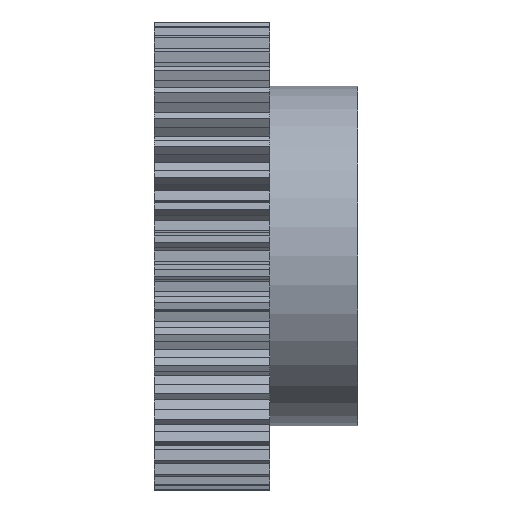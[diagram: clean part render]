
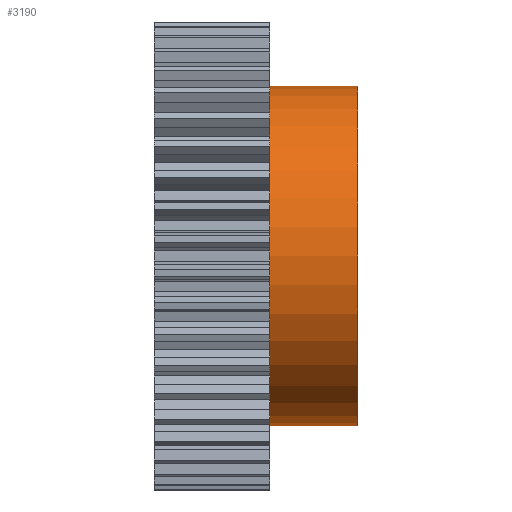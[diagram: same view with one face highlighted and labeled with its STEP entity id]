
A CAD part, front view. The second image highlights one B-rep face of the part: STEP entity #3190.
In plain terms, the highlighted cylindrical face has radius 25 mm (diameter 50 mm), a partial arc.
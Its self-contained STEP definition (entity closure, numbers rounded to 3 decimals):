
#1810 = VERTEX_POINT ( 'NONE', #6518 ) ;
#1814 = VERTEX_POINT ( 'NONE', #6563 ) ;
#1817 = EDGE_CURVE ( 'NONE', #1818, #1810, #6509, .T. ) ;
#1818 = VERTEX_POINT ( 'NONE', #6517 ) ;
#1819 = EDGE_CURVE ( 'NONE', #1814, #1824, #6553, .T. ) ;
#1824 = VERTEX_POINT ( 'NONE', #6550 ) ;
#2871 = EDGE_CURVE ( 'NONE', #1824, #1810, #8208, .T. ) ;
#2876 = EDGE_CURVE ( 'NONE', #1818, #1814, #8238, .T. ) ;
#3178 = ORIENTED_EDGE ( 'NONE', *, *, #1819, .T. ) ;
#3179 = ORIENTED_EDGE ( 'NONE', *, *, #2871, .T. ) ;
#3184 = EDGE_LOOP ( 'NONE', ( #3188, #3186, #3178, #3179 ) ) ;
#3186 = ORIENTED_EDGE ( 'NONE', *, *, #2876, .T. ) ;
#3188 = ORIENTED_EDGE ( 'NONE', *, *, #1817, .F. ) ;
#3190 = ADVANCED_FACE ( 'NONE', ( #8249 ), #8287, .T. ) ;
#6509 = LINE ( 'NONE', #6556, #6555 ) ;
#6517 = CARTESIAN_POINT ( 'NONE',  ( 21.5, 0., -25. ) ) ;
#6518 = CARTESIAN_POINT ( 'NONE',  ( 8.5, 0., -25. ) ) ;
#6547 = DIRECTION ( 'NONE',  ( -1., 0., 0. ) ) ;
#6548 = VECTOR ( 'NONE', #6547, 1000. ) ;
#6550 = CARTESIAN_POINT ( 'NONE',  ( 8.5, 0., 25. ) ) ;
#6552 = CARTESIAN_POINT ( 'NONE',  ( 8.5, 0., 25. ) ) ;
#6553 = LINE ( 'NONE', #6552, #6548 ) ;
#6554 = DIRECTION ( 'NONE',  ( -1., 0., 0. ) ) ;
#6555 = VECTOR ( 'NONE', #6554, 1000. ) ;
#6556 = CARTESIAN_POINT ( 'NONE',  ( 8.5, 0., -25. ) ) ;
#6563 = CARTESIAN_POINT ( 'NONE',  ( 21.5, 0., 25. ) ) ;
#8190 = AXIS2_PLACEMENT_3D ( 'NONE', #8245, #8241, #8240 ) ;
#8208 = CIRCLE ( 'NONE', #8190, 25. ) ;
#8227 = DIRECTION ( 'NONE',  ( 0., 0., 1. ) ) ;
#8228 = DIRECTION ( 'NONE',  ( -1., 0., 0. ) ) ;
#8229 = CARTESIAN_POINT ( 'NONE',  ( 21.5, 0., 0. ) ) ;
#8236 = AXIS2_PLACEMENT_3D ( 'NONE', #8229, #8228, #8227 ) ;
#8238 = CIRCLE ( 'NONE', #8236, 25. ) ;
#8240 = DIRECTION ( 'NONE',  ( 0., 0., 1. ) ) ;
#8241 = DIRECTION ( 'NONE',  ( 1., 0., 0. ) ) ;
#8245 = CARTESIAN_POINT ( 'NONE',  ( 8.5, 0., 0. ) ) ;
#8249 = FACE_OUTER_BOUND ( 'NONE', #3184, .T. ) ;
#8287 = CYLINDRICAL_SURFACE ( 'NONE', #8302, 25. ) ;
#8302 = AXIS2_PLACEMENT_3D ( 'NONE', #8335, #8333, #8332 ) ;
#8332 = DIRECTION ( 'NONE',  ( 0., 0., 1. ) ) ;
#8333 = DIRECTION ( 'NONE',  ( -1., 0., 0. ) ) ;
#8335 = CARTESIAN_POINT ( 'NONE',  ( 8.5, 0., 0. ) ) ;
